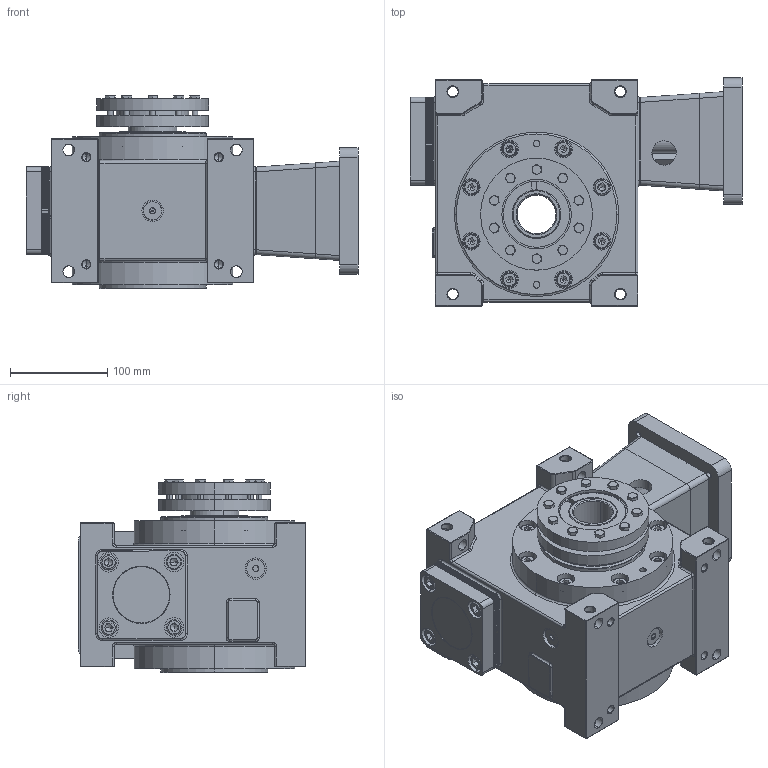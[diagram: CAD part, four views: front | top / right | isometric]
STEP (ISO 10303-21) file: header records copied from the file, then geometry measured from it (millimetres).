
FILE_DESCRIPTION (( 'STEP AP203' ), '1' );
FILE_NAME ('EDB75-60-P3-BM F145 110.STEP', '2022-01-11T09:21:21', ( '' ), ( '' ), 'SwSTEP 2.0', 'SolidWorks 2021', '' );
FILE_SCHEMA (( 'CONFIG_CONTROL_DESIGN' ));
Products named in the file (1): EDB75-60-P3-BM F145 110
Bounding box: 341 x 234 x 198.72 mm (x, y, z)
Volume: 7100294.3 mm3; surface area: 742210.8 mm2
Topology: 50 solids, 55 shells, 2622 faces, 7071 edges, 4390 vertices
Faces by surface type: plane 911, cylinder 755, cone 529, torus 388, sphere 37, bspline 2
Entity records: 90946 total; most frequent: CARTESIAN_POINT 26172, ORIENTED_EDGE 13756, DIRECTION 13631, EDGE_CURVE 6878, AXIS2_PLACEMENT_3D 5587, VERTEX_POINT 4322, EDGE_LOOP 2984, CIRCLE 2966
